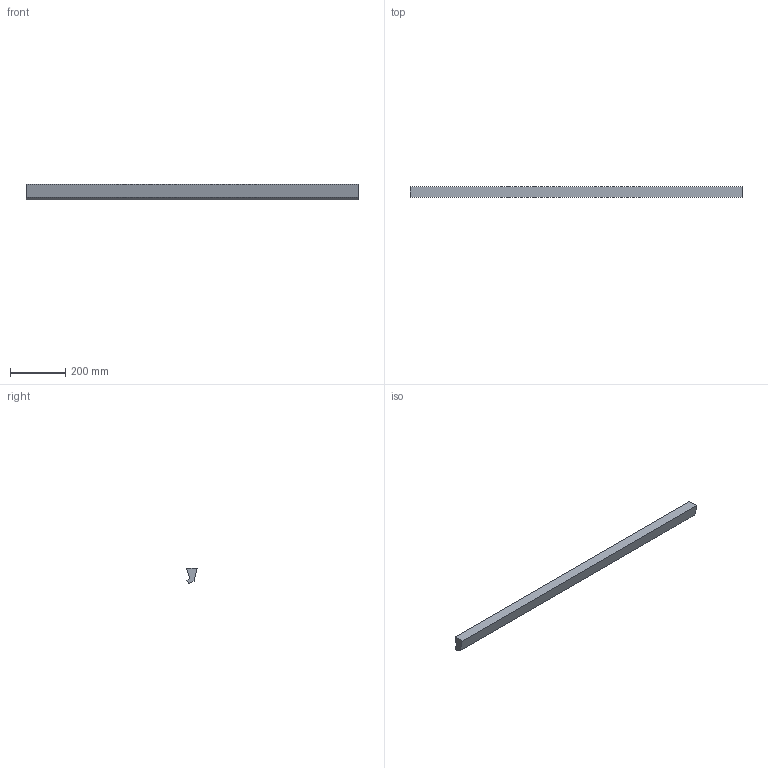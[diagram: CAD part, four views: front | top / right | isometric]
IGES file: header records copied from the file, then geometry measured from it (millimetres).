
Start section: SolidWorks IGES file using analytic representation for surfaces
Global section: file name: C:\Users\Stagiaire\Desktop\Rendu 3D\Micro CORNICHE\189 LIGNE\189_ligne.IGS; native system: SolidWorks 2014; preprocessor: SolidWorks 2014; author: Stagiaire; date: 140915.115613; units: millimetre
Bounding box: 1200 x 37 x 57 mm (x, y, z)
Surface area: 210805 mm2 (no closed solid volume)
Topology: 0 solids, 0 shells, 9 faces, 42 edges, 42 vertices
Faces by surface type: bspline 9
